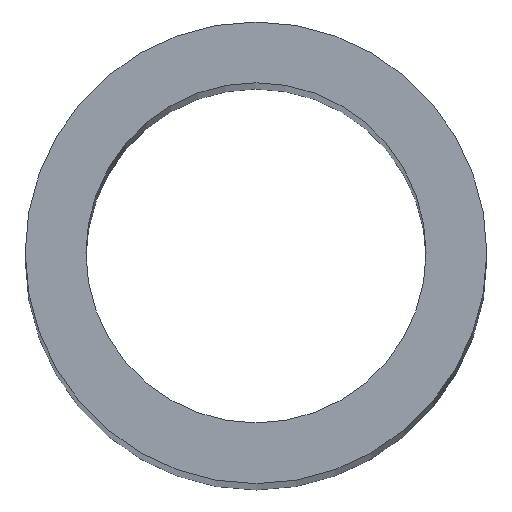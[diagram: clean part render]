
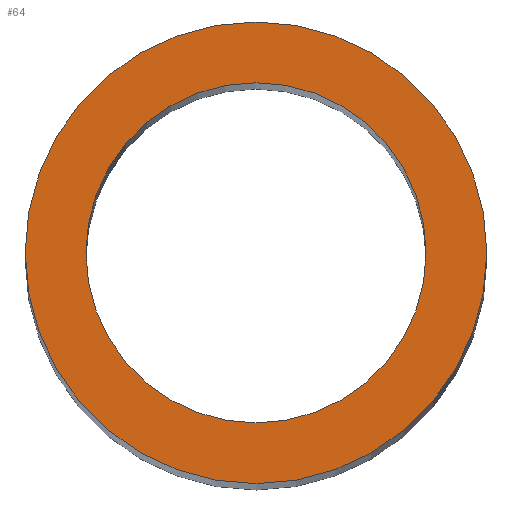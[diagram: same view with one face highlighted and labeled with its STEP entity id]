
A CAD part, top view. The second image highlights one B-rep face of the part: STEP entity #64.
In plain terms, the highlighted planar face has unit normal (0, 0, 1).
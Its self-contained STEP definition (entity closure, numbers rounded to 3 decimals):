
#22=FACE_BOUND('',#32,.T.);
#26=FACE_OUTER_BOUND('',#31,.T.);
#31=EDGE_LOOP('',(#57));
#32=EDGE_LOOP('',(#58));
#35=CIRCLE('',#92,14.);
#36=CIRCLE('',#94,19.);
#39=VERTEX_POINT('',#123);
#40=VERTEX_POINT('',#127);
#43=EDGE_CURVE('',#39,#39,#35,.T.);
#45=EDGE_CURVE('',#40,#40,#36,.T.);
#57=ORIENTED_EDGE('',*,*,#45,.T.);
#58=ORIENTED_EDGE('',*,*,#43,.T.);
#60=PLANE('',#95);
#64=ADVANCED_FACE('',(#26,#22),#60,.T.);
#92=AXIS2_PLACEMENT_3D('',#124,#106,#107);
#94=AXIS2_PLACEMENT_3D('',#128,#111,#112);
#95=AXIS2_PLACEMENT_3D('',#130,#114,#115);
#106=DIRECTION('center_axis',(0.,0.,-1.));
#107=DIRECTION('ref_axis',(-1.,0.,0.));
#111=DIRECTION('center_axis',(0.,0.,1.));
#112=DIRECTION('ref_axis',(1.,0.,0.));
#114=DIRECTION('center_axis',(0.,0.,1.));
#115=DIRECTION('ref_axis',(1.,0.,0.));
#123=CARTESIAN_POINT('',(14.,0.,150.));
#124=CARTESIAN_POINT('Origin',(0.,0.,150.));
#127=CARTESIAN_POINT('',(-19.,0.,150.));
#128=CARTESIAN_POINT('Origin',(0.,0.,150.));
#130=CARTESIAN_POINT('Origin',(0.,0.,150.));
